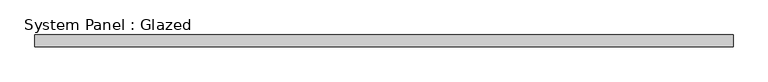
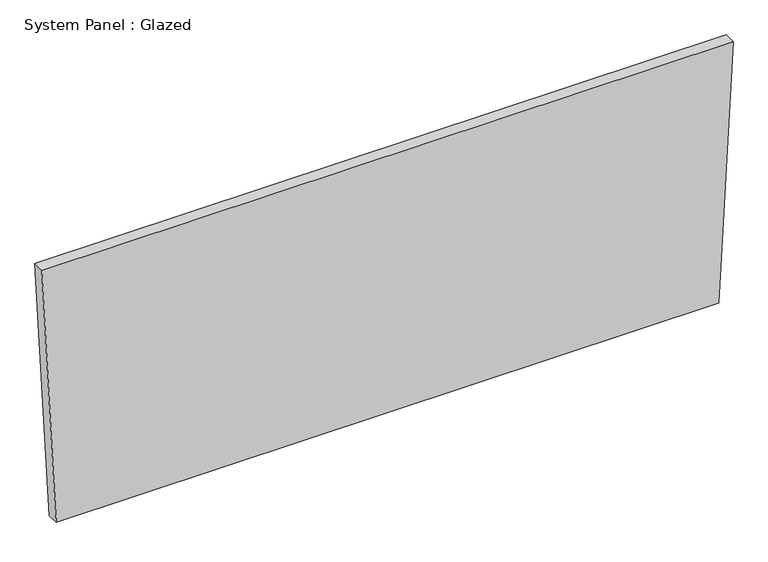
"""IFC4 building model written with IfcOpenShell, lengths in millimetres: plate geometry, System Panel : Glazed."""

from ifc_helpers import new_model, si_unit, frame, origin, place, context, project, spatial, polyline, outline, extrude, source, transform, mapped, element, save


def system_panel_glazed_f0cf6c0b(model_context):
    return source(origin(), model_context, "Body", "SweptSolid", [
        extrude(outline(polyline([(0.0, -711.5673727), (0.0, 711.5673727), (583.3538533, 742.3354171), (583.3538533, -742.3354171), (0.0, -711.5673727)])), frame((0.0, 19.05, 0.0), z_axis=(0.0, 1.0, 0.0), x_axis=(0.0, 0.0, 1.0)), (0.0, 0.0, 1.0), 25.4),
    ])


if __name__ == "__main__":
    model = new_model("IFC4")
    model_context = context("Model", 3, world=origin())
    ifc_project = project(units=[si_unit("LENGTHUNIT", "METRE", prefix="MILLI")], contexts=[model_context])
    site = spatial("IfcSite", under=ifc_project)
    building = spatial("IfcBuilding", under=site)
    placement = place(None, origin())
    system_panel_glazed_shape = system_panel_glazed_f0cf6c0b(model_context)
    element("IfcPlate", 1, ObjectType="System Panel : Glazed", at=placement, inside=building, context=model_context, shape_type="MappedRepresentation", body=[
        mapped(system_panel_glazed_shape, transform((0.0, 0.0, 0.0), x_axis=(1.0, 0.0, 0.0), y_axis=(0.0, 1.0, 0.0), z_axis=(0.0, 0.0, 1.0))),
    ])
    save(model, "model.ifc")
